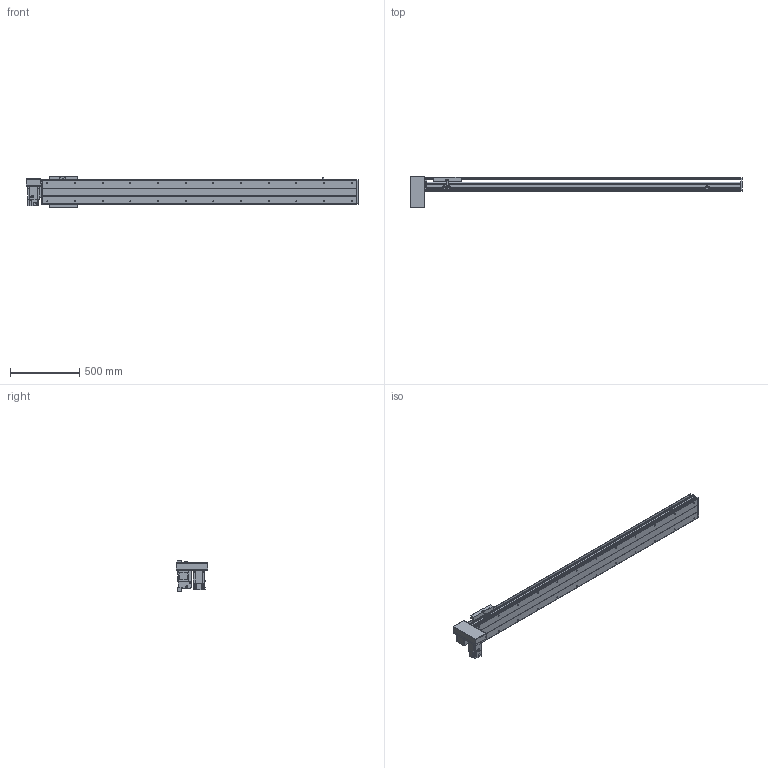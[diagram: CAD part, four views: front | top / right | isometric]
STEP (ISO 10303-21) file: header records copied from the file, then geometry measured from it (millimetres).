
FILE_DESCRIPTION(/* description */ ('STEP AP214'),/* implementation_level */ '2;1');
FILE_NAME(/* name */ 'PBS200-P40-S1900-RD-T75-C1-N(0)',/* time_stamp */ '2022-06-11T09:30:43+02:00',/* author */ ('License CC BY-ND 4.0'),/* organization */ ('CADENAS'),/* preprocessor_version */ 'ST-DEVELOPER v18.102',/* originating_system */ 'PARTsolutions',/* authorisation */ ' ');
FILE_SCHEMA (('AUTOMOTIVE_DESIGN {1 0 10303 214 3 1 1}'));
Length unit declared in the file: millimetre
Products named in the file (7): PBS200-P40-S1900-RD-T75-C1-N(0); PBS200_sensor; PBS200_plant; PBS200_sliser; T75-p1; PBS200T-RD_motors; PBS200-S1900()_body
Assembly tree (8 placements, depth 2):
  PBS200-P40-S1900-RD-T75-C1-N(0)
    PBS200_sensor  x3
    PBS200_plant
    PBS200_sliser
    T75-p1
    PBS200T-RD_motors
    PBS200-S1900()_body
Bounding box: 2400 x 230 x 221 mm (x, y, z)
Volume: 16857653.3 mm3; surface area: 2705404.2 mm2
Topology: 8 solids, 8 shells, 944 faces, 2414 edges, 1572 vertices
Faces by surface type: plane 582, cylinder 306, cone 56
Full cylindrical faces by diameter (mm): 2.459 x6, 3.242 x4, 4.5 x6, 4.917 x4, 5 x6, 6 x7, 6.6 x8, 6.647 x28, 8 x6, 10 x4, 12 x8, 38 x2, 40 x1, 70 x1
Entity records: 25061 total; most frequent: DIRECTION 4423, CARTESIAN_POINT 4264, ORIENTED_EDGE 4030, EDGE_CURVE 2015, AXIS2_PLACEMENT_3D 1555, VERTEX_POINT 1396, LINE 1313, VECTOR 1313
